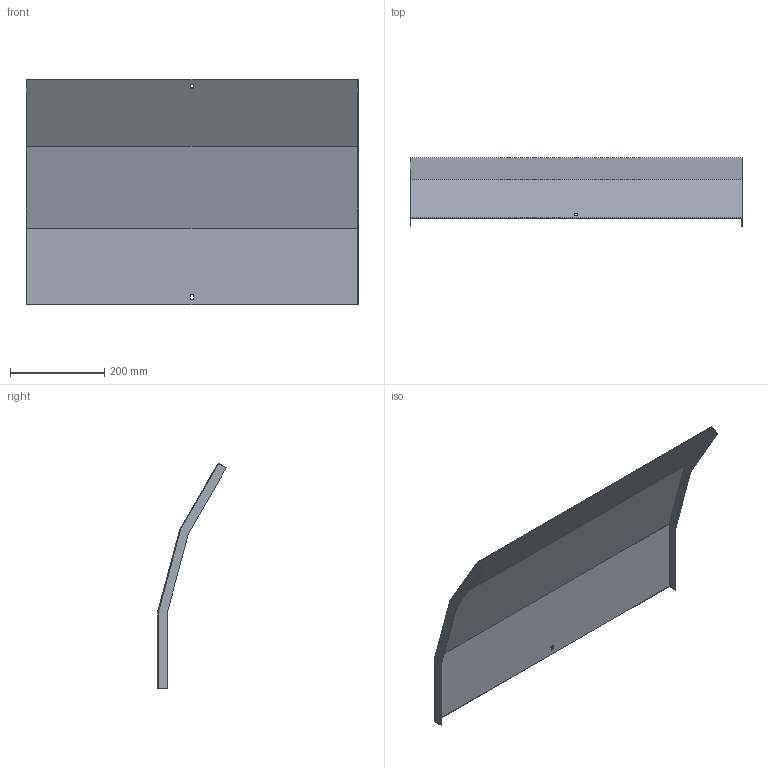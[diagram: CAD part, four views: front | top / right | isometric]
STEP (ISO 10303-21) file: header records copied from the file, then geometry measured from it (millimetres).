
FILE_DESCRIPTION (( 'STEP AP214' ), '1' );
FILE_NAME ('A2_35N3C700.step', '2025-02-21T10:30:25', ( '' ), ( '' ), 'SwSTEP 2.0', 'SolidWorks 2023', '' );
FILE_SCHEMA (( 'AUTOMOTIVE_DESIGN' ));
Length unit declared in the file: millimetre
Products named in the file (1): A2_35N3C700
Bounding box: 703 x 145.29 x 477.6 mm (x, y, z)
Volume: 560234.6 mm3; surface area: 750778.6 mm2
Topology: 1 solids, 1 shells, 26 faces, 72 edges, 48 vertices
Faces by surface type: plane 26
Entity records: 847 total; most frequent: CARTESIAN_POINT 147, ORIENTED_EDGE 144, DIRECTION 126, EDGE_CURVE 72, VECTOR 72, LINE 72, VERTEX_POINT 48, EDGE_LOOP 30
